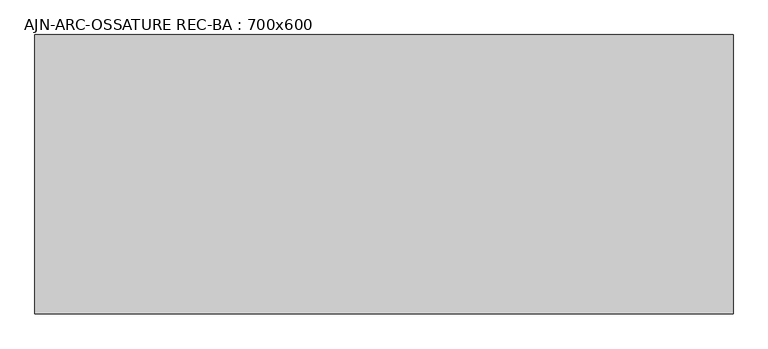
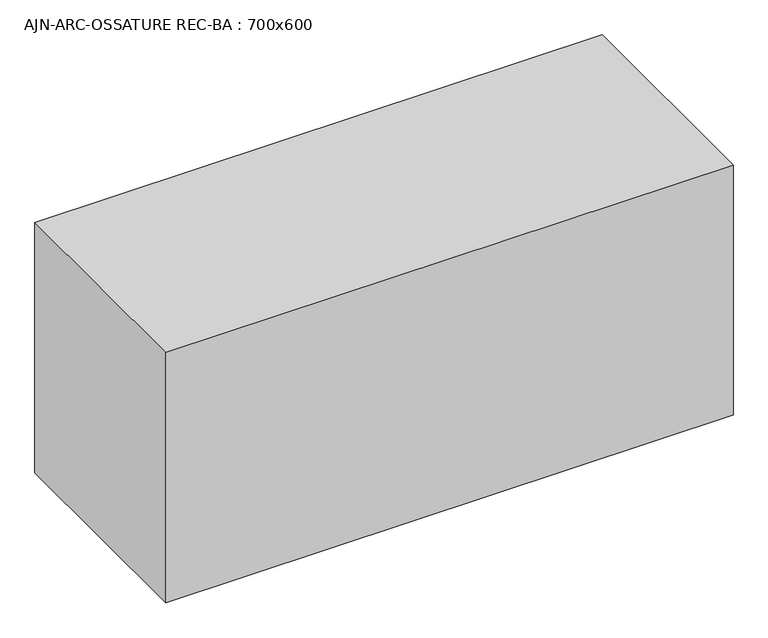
"""IFC4 building model written with IfcOpenShell, lengths in millimetres: beam geometry, AJN-ARC-OSSATURE REC-BA : 700x600."""

from ifc_helpers import new_model, si_unit, frame, origin, place, context, project, spatial, polyline, outline, extrude, source, transform, mapped, element, save


def ajn_arc_ossature_rec_ba_700x600_9ae0f913(model_context):
    return source(origin(), model_context, "Body", "SweptSolid", [
        extrude(outline(polyline([(900.0, 300.0), (900.0, -300.0), (-600.0, -300.0), (-600.0, 300.0), (900.0, 300.0)])), frame((0.0, 0.0, -350.0), z_axis=(0.0, 0.0, 1.0), x_axis=(1.0, 0.0, 0.0)), (0.0, 0.0, 1.0), 700.0),
    ])


if __name__ == "__main__":
    model = new_model("IFC4")
    model_context = context("Model", 3, world=origin())
    ifc_project = project(units=[si_unit("LENGTHUNIT", "METRE", prefix="MILLI")], contexts=[model_context])
    site = spatial("IfcSite", under=ifc_project)
    building = spatial("IfcBuilding", under=site)
    placement = place(None, origin())
    ajn_arc_ossature_rec_ba_700x600_shape = ajn_arc_ossature_rec_ba_700x600_9ae0f913(model_context)
    element("IfcBeam", 1, ObjectType="AJN-ARC-OSSATURE REC-BA : 700x600", at=placement, inside=building, context=model_context, shape_type="MappedRepresentation", body=[
        mapped(ajn_arc_ossature_rec_ba_700x600_shape, transform((0.0, 0.0, 0.0), x_axis=(1.0, 0.0, 0.0), y_axis=(0.0, 1.0, 0.0), z_axis=(0.0, 0.0, 1.0))),
    ])
    save(model, "model.ifc")
